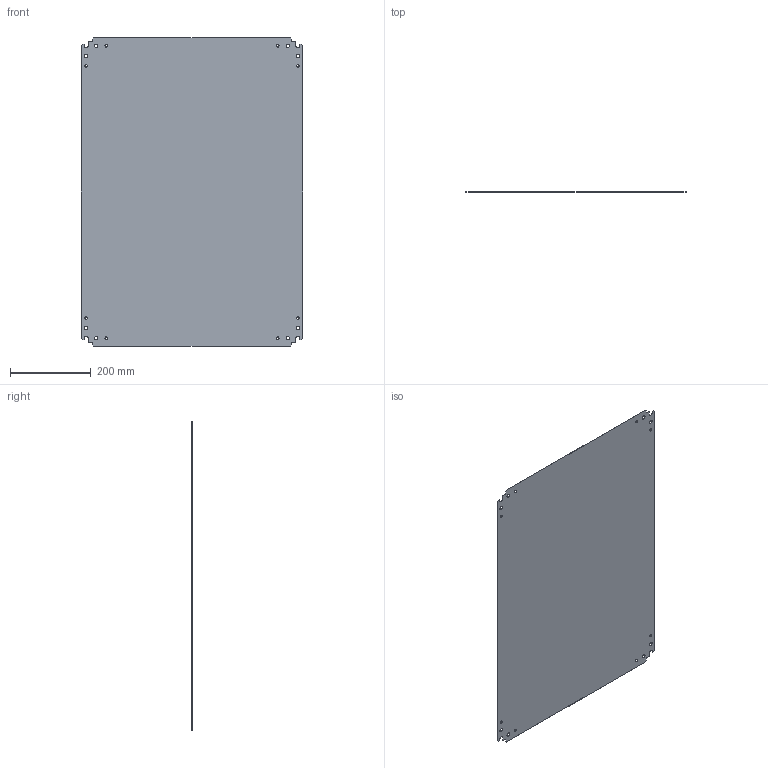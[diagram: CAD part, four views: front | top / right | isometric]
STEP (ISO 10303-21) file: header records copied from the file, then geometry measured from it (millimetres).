
FILE_DESCRIPTION( ( 'Unknown' ), '1' );
FILE_NAME( 'f:/batch/stp/PWPA8564.stp', 'Unknown', ( 'Unknown' ), ( 'Unknown' ), 'PSStep 10.1', 'Unknown', ' ' );
FILE_SCHEMA( ( 'AUTOMOTIVE_DESIGN { 1 0 10303 214 1 1 1 1 }' ) );
Length unit declared in the file: millimetre
Products named in the file (2): Assem1; COM53900
Bounding box: 550.01 x 0.32 x 765 mm (x, y, z)
Surface area: 1674229.8 mm2
Topology: 2 solids, 2 shells, 124 faces, 392 edges, 272 vertices
Faces by surface type: plane 68, cylinder 56
Full cylindrical faces by diameter (mm): 6.502 x16, 8.738 x16
Entity records: 2078 total; most frequent: CARTESIAN_POINT 348, DIRECTION 348, ORIENTED_EDGE 328, EDGE_CURVE 164, AXIS2_PLACEMENT_3D 120, VERTEX_POINT 120, EDGE_LOOP 110, LINE 108
